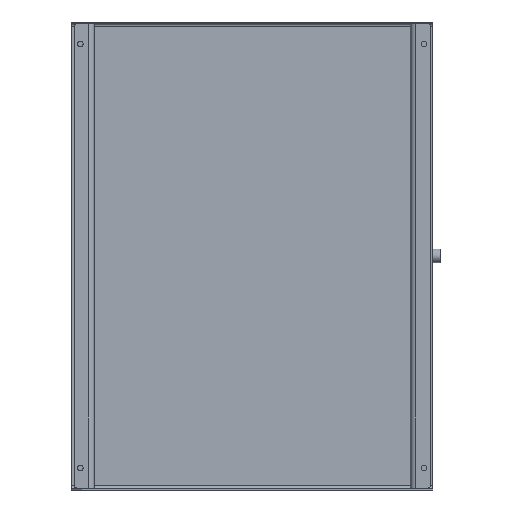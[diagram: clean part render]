
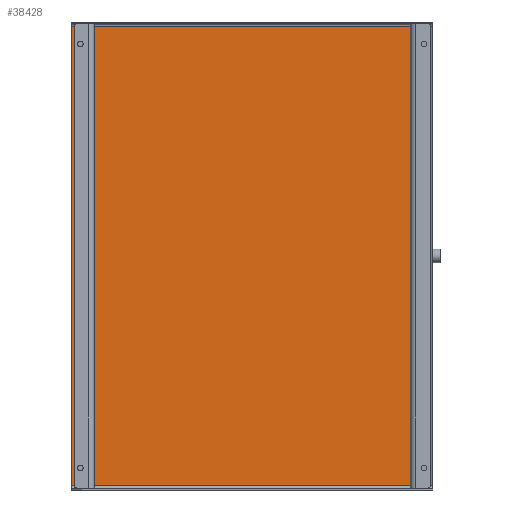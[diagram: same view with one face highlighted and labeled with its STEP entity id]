
A CAD part, front view. The second image highlights one B-rep face of the part: STEP entity #38428.
In plain terms, the highlighted planar face has unit normal (0, -1, 0).
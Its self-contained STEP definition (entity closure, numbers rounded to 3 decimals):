
#2596 = CARTESIAN_POINT ( 'NONE',  ( -33.533, -12.607, 26.26 ) ) ;
#6597 = VECTOR ( 'NONE', #36535, 39.37 ) ;
#7927 = CARTESIAN_POINT ( 'NONE',  ( -33.533, -12.607, 25.831 ) ) ;
#13146 = DIRECTION ( 'NONE',  ( -1., 0., 0. ) ) ;
#13421 = DIRECTION ( 'NONE',  ( 0., -1., 0. ) ) ;
#17244 = VERTEX_POINT ( 'NONE', #22441 ) ;
#19346 = DIRECTION ( 'NONE',  ( 1., 0., 0. ) ) ;
#20245 = CARTESIAN_POINT ( 'NONE',  ( -33.533, -12.607, -20.365 ) ) ;
#22441 = CARTESIAN_POINT ( 'NONE',  ( 2.467, -12.607, 25.831 ) ) ;
#22559 = VERTEX_POINT ( 'NONE', #7927 ) ;
#24986 = FACE_OUTER_BOUND ( 'NONE', #34194, .T. ) ;
#25525 = LINE ( 'NONE', #59836, #79027 ) ;
#29824 = ORIENTED_EDGE ( 'NONE', *, *, #59257, .F. ) ;
#29986 = VERTEX_POINT ( 'NONE', #84237 ) ;
#33025 = AXIS2_PLACEMENT_3D ( 'NONE', #20245, #13421, #33814 ) ;
#33814 = DIRECTION ( 'NONE',  ( 0., 0., -1. ) ) ;
#34194 = EDGE_LOOP ( 'NONE', ( #81081, #58358, #63625, #29824 ) ) ;
#36535 = DIRECTION ( 'NONE',  ( 0., 0., 1. ) ) ;
#38428 = ADVANCED_FACE ( 'NONE', ( #24986 ), #74032, .T. ) ;
#40115 = CARTESIAN_POINT ( 'NONE',  ( 2.467, -12.607, -19.936 ) ) ;
#43283 = DIRECTION ( 'NONE',  ( 0., 0., -1. ) ) ;
#50020 = EDGE_CURVE ( 'NONE', #17244, #29986, #77415, .T. ) ;
#56246 = EDGE_CURVE ( 'NONE', #29986, #69973, #58751, .T. ) ;
#58358 = ORIENTED_EDGE ( 'NONE', *, *, #56246, .F. ) ;
#58751 = LINE ( 'NONE', #40115, #74272 ) ;
#59257 = EDGE_CURVE ( 'NONE', #22559, #17244, #25525, .T. ) ;
#59836 = CARTESIAN_POINT ( 'NONE',  ( -33.533, -12.607, 25.831 ) ) ;
#63297 = CARTESIAN_POINT ( 'NONE',  ( 2.467, -12.607, 26.26 ) ) ;
#63625 = ORIENTED_EDGE ( 'NONE', *, *, #50020, .F. ) ;
#69973 = VERTEX_POINT ( 'NONE', #77728 ) ;
#74032 = PLANE ( 'NONE',  #33025 ) ;
#74272 = VECTOR ( 'NONE', #13146, 39.37 ) ;
#74805 = EDGE_CURVE ( 'NONE', #69973, #22559, #76230, .T. ) ;
#75313 = VECTOR ( 'NONE', #43283, 39.37 ) ;
#76230 = LINE ( 'NONE', #2596, #6597 ) ;
#77415 = LINE ( 'NONE', #63297, #75313 ) ;
#77728 = CARTESIAN_POINT ( 'NONE',  ( -33.533, -12.607, -19.936 ) ) ;
#79027 = VECTOR ( 'NONE', #19346, 39.37 ) ;
#81081 = ORIENTED_EDGE ( 'NONE', *, *, #74805, .F. ) ;
#84237 = CARTESIAN_POINT ( 'NONE',  ( 2.467, -12.607, -19.936 ) ) ;
